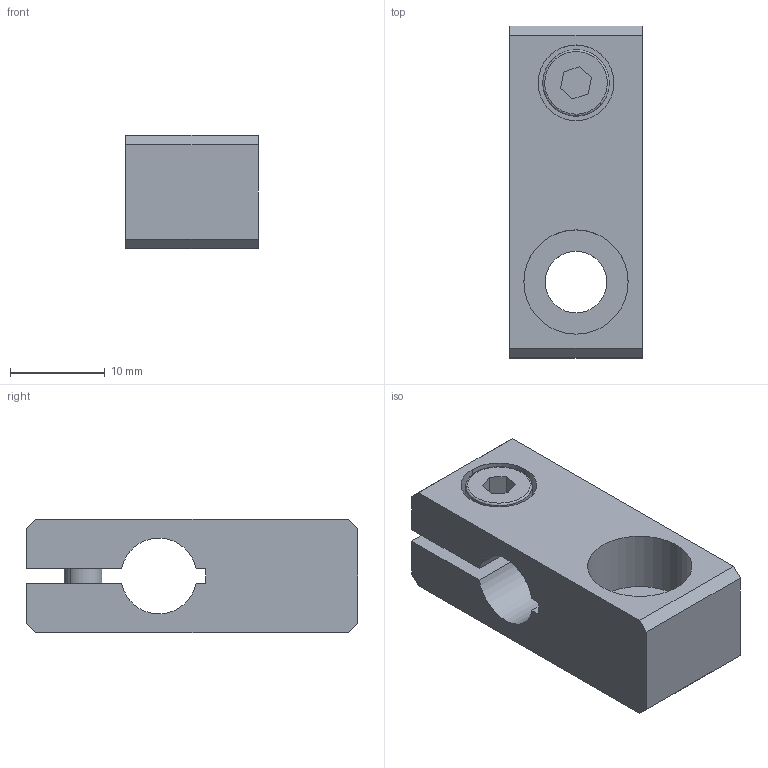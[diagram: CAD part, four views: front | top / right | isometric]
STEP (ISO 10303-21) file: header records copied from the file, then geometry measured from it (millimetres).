
FILE_DESCRIPTION (( 'STEP AP214' ), '1' );
FILE_NAME ('SMBH1-8M6T.STEP', '2022-12-29T08:13:06', ( 'Windows User' ), ( 'P R C' ), 'SwSTEP 2.0', 'SolidWorks 2018', '' );
FILE_SCHEMA (( 'AUTOMOTIVE_DESIGN' ));
Length unit declared in the file: millimetre
Products named in the file (1): SMBH1-8M6T
Bounding box: 14 x 35 x 12 mm (x, y, z)
Volume: 4035.8 mm3; surface area: 3373.8 mm2
Topology: 3 solids, 3 shells, 244 faces, 696 edges, 460 vertices
Faces by surface type: plane 220, cylinder 20, cone 2, bspline 2
Entity records: 10847 total; most frequent: CARTESIAN_POINT 1525, DIRECTION 1404, ORIENTED_EDGE 1392, EDGE_CURVE 696, AXIS2_PLACEMENT_3D 469, VECTOR 466, LINE 466, VERTEX_POINT 460
